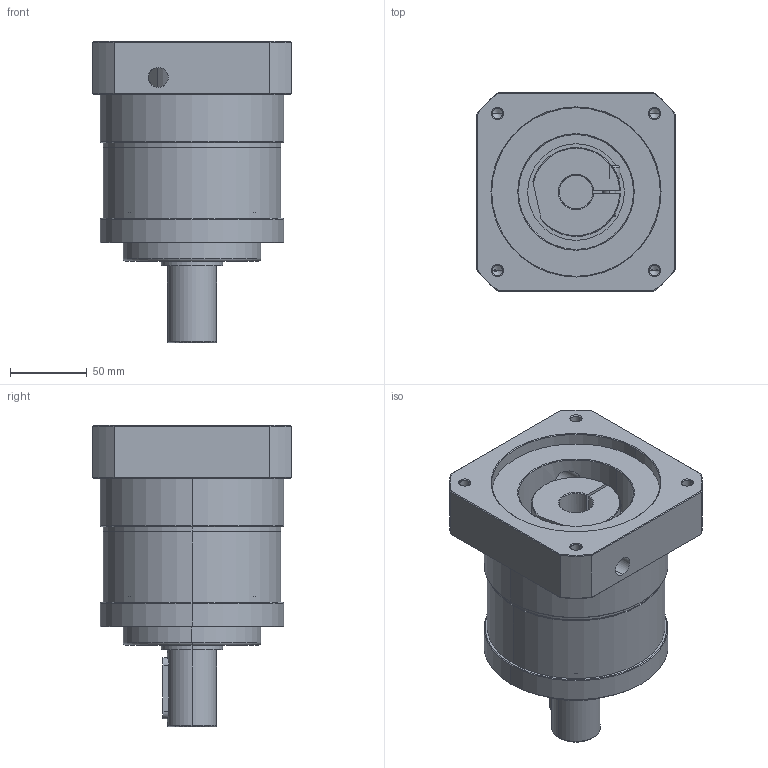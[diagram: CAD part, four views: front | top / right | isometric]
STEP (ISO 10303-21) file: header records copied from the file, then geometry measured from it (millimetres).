
FILE_DESCRIPTION (( 'STEP AP214' ), '1' );
FILE_NAME ('PBL120-L1-22×55-110-145M8 三维零件图.STEP', '2021-08-13T04:40:58', ( 'XJJ' ), ( '' ), 'SwSTEP 2.0', 'SolidWorks 2016', '' );
FILE_SCHEMA (( 'AUTOMOTIVE_DESIGN' ));
Length unit declared in the file: millimetre
Products named in the file (3): hexagon socket head cap screws gb_GB_FASTENER_SCREWS_HSHCS M8X25-N; PBL120-L1-22×60-110-145×M8 三维零件图; PBL120-L1-22×55-110-145M8 三维零件图
Assembly tree (2 placements, depth 2):
  PBL120-L1-22×55-110-145M8 三维零件图
    PBL120-L1-22×60-110-145×M8 三维零件图
    hexagon socket head cap screws gb_GB_FASTENER_SCREWS_HSHCS M8X25-N
Bounding box: 130 x 130 x 196.5 mm (x, y, z)
Volume: 1540135.5 mm3; surface area: 126085.9 mm2
Topology: 2 solids, 2 shells, 195 faces, 443 edges, 258 vertices
Faces by surface type: cylinder 70, cone 67, plane 52, torus 6
Entity records: 6500 total; most frequent: CARTESIAN_POINT 1319, DIRECTION 988, ORIENTED_EDGE 846, EDGE_CURVE 423, AXIS2_PLACEMENT_3D 399, VERTEX_POINT 258, EDGE_LOOP 229, CIRCLE 199
